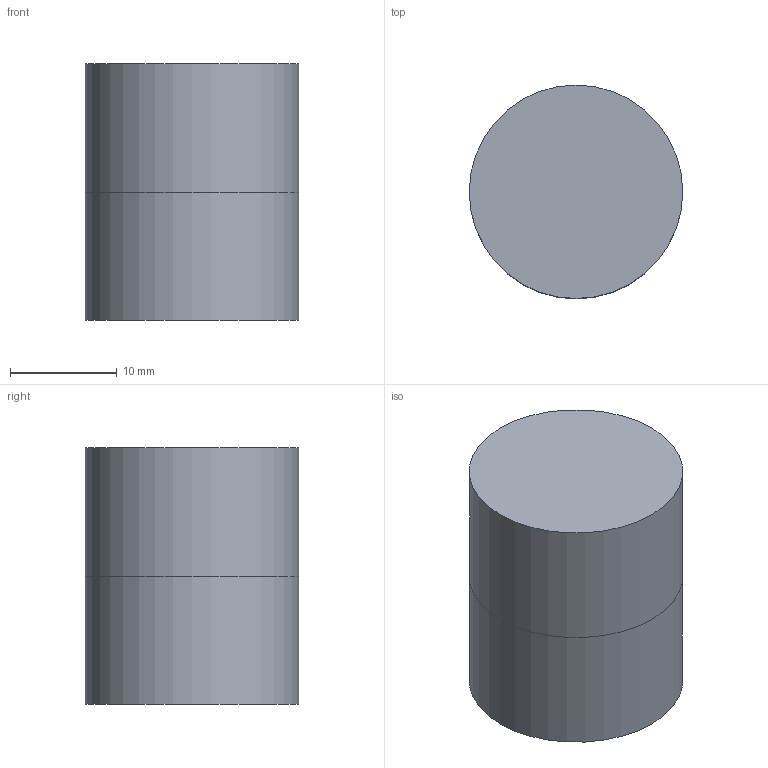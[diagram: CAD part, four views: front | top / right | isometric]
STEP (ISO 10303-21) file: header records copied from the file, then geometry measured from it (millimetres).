
FILE_DESCRIPTION(('Open CASCADE Model'),'2;1');
FILE_NAME('Open CASCADE Shape Model','2026-10-25T05:18:02',('Author'),( 'Open CASCADE'),'Open CASCADE STEP processor 7.9','Open CASCADE 7.9' ,'Unknown');
FILE_SCHEMA(('AUTOMOTIVE_DESIGN { 1 0 10303 214 1 1 1 1 }'));
Length unit declared in the file: millimetre
Products named in the file (1): Open CASCADE STEP translator 7.9 68
Bounding box: 20 x 20 x 24 mm (x, y, z)
Volume: 7539.8 mm3; surface area: 2136.3 mm2
Topology: 1 solids, 1 shells, 4 faces, 5 edges, 3 vertices
Faces by surface type: cylinder 2, plane 2
Full cylindrical faces by diameter (mm): 20 x2
Entity records: 159 total; most frequent: DIRECTION 28, CARTESIAN_POINT 23, ORIENTED_EDGE 10, LINE 10, VECTOR 10, PCURVE 10, DEFINITIONAL_REPRESENTATION 10, AXIS2_PLACEMENT_3D 8
